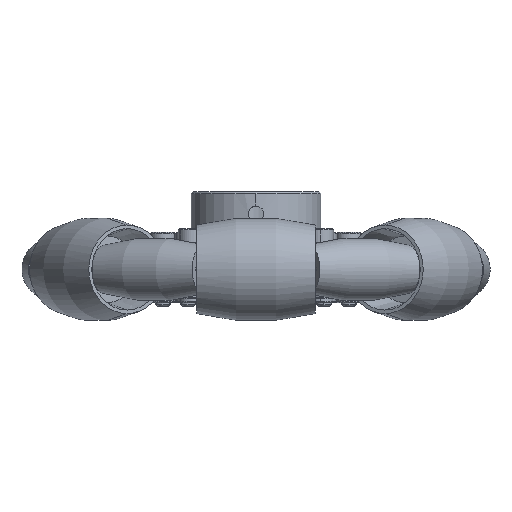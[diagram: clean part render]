
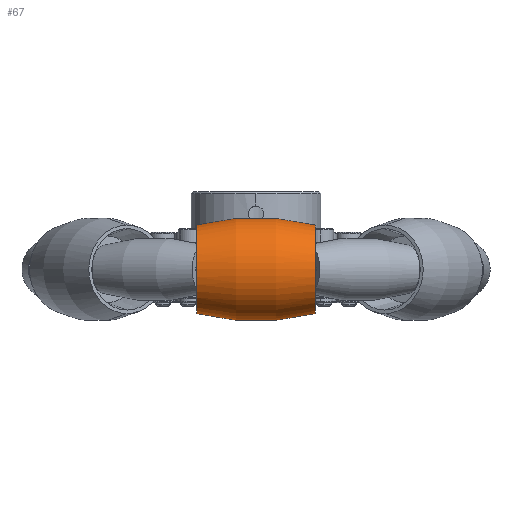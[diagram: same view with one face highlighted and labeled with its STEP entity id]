
A CAD part, front view. The second image highlights one B-rep face of the part: STEP entity #67.
In plain terms, the highlighted toroidal (fillet/blend) face has major radius 49.5 mm and minor radius 63.5 mm.
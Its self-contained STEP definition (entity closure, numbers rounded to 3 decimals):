
#67 = ADVANCED_FACE ( 'NONE', ( #10633 ), #7940, .T. ) ;
#181 = CIRCLE ( 'NONE', #9570, 11.951 ) ;
#270 = DIRECTION ( 'NONE',  ( 0., 0., 1. ) ) ;
#340 = VERTEX_POINT ( 'NONE', #4220 ) ;
#768 = CIRCLE ( 'NONE', #2598, 11.951 ) ;
#949 = CARTESIAN_POINT ( 'NONE',  ( 0., 49.5, 0. ) ) ;
#995 = DIRECTION ( 'NONE',  ( 0., 0., 1. ) ) ;
#1106 = CARTESIAN_POINT ( 'NONE',  ( -16., 49.5, 11.951 ) ) ;
#1282 = CARTESIAN_POINT ( 'NONE',  ( 0., 49.5, 49.5 ) ) ;
#1650 = ORIENTED_EDGE ( 'NONE', *, *, #11456, .T. ) ;
#1951 = DIRECTION ( 'NONE',  ( 0., 0., 1. ) ) ;
#2326 = DIRECTION ( 'NONE',  ( 0., 0., 1. ) ) ;
#2408 = DIRECTION ( 'NONE',  ( 0., -1., 0. ) ) ;
#2598 = AXIS2_PLACEMENT_3D ( 'NONE', #7683, #7103, #995 ) ;
#3812 = ORIENTED_EDGE ( 'NONE', *, *, #10717, .T. ) ;
#4220 = CARTESIAN_POINT ( 'NONE',  ( 16., 49.5, 11.951 ) ) ;
#4539 = EDGE_CURVE ( 'NONE', #10614, #9224, #768, .T. ) ;
#5279 = EDGE_LOOP ( 'NONE', ( #3812, #1650, #12215, #11420 ) ) ;
#5820 = AXIS2_PLACEMENT_3D ( 'NONE', #1282, #8432, #2326 ) ;
#6034 = DIRECTION ( 'NONE',  ( -1., 0., 0. ) ) ;
#6394 = DIRECTION ( 'NONE',  ( -1., 0., 0. ) ) ;
#6494 = AXIS2_PLACEMENT_3D ( 'NONE', #8517, #2408, #9528 ) ;
#6887 = VERTEX_POINT ( 'NONE', #7173 ) ;
#6904 = AXIS2_PLACEMENT_3D ( 'NONE', #949, #6034, #1951 ) ;
#7103 = DIRECTION ( 'NONE',  ( -1., 0., 0. ) ) ;
#7173 = CARTESIAN_POINT ( 'NONE',  ( 16., 49.5, -11.951 ) ) ;
#7305 = CARTESIAN_POINT ( 'NONE',  ( -16., 49.5, -11.951 ) ) ;
#7683 = CARTESIAN_POINT ( 'NONE',  ( -16., 49.5, 0. ) ) ;
#7940 = TOROIDAL_SURFACE ( 'NONE', #6904, -49.5, 63.5 ) ;
#8291 = CIRCLE ( 'NONE', #6494, 63.5 ) ;
#8432 = DIRECTION ( 'NONE',  ( 0., 1., 0. ) ) ;
#8517 = CARTESIAN_POINT ( 'NONE',  ( 0., 49.5, -49.5 ) ) ;
#8609 = CIRCLE ( 'NONE', #5820, 63.5 ) ;
#9224 = VERTEX_POINT ( 'NONE', #7305 ) ;
#9528 = DIRECTION ( 'NONE',  ( 0., 0., -1. ) ) ;
#9570 = AXIS2_PLACEMENT_3D ( 'NONE', #12491, #6394, #270 ) ;
#10614 = VERTEX_POINT ( 'NONE', #1106 ) ;
#10633 = FACE_OUTER_BOUND ( 'NONE', #5279, .T. ) ;
#10717 = EDGE_CURVE ( 'NONE', #340, #6887, #181, .T. ) ;
#11420 = ORIENTED_EDGE ( 'NONE', *, *, #11548, .F. ) ;
#11456 = EDGE_CURVE ( 'NONE', #6887, #9224, #8609, .T. ) ;
#11548 = EDGE_CURVE ( 'NONE', #340, #10614, #8291, .T. ) ;
#12215 = ORIENTED_EDGE ( 'NONE', *, *, #4539, .F. ) ;
#12491 = CARTESIAN_POINT ( 'NONE',  ( 16., 49.5, 0. ) ) ;
